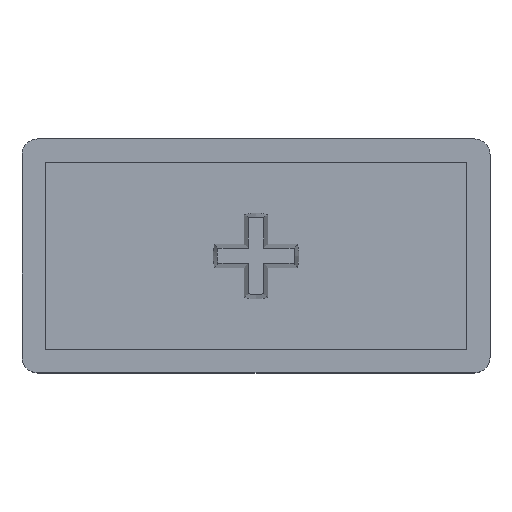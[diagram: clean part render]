
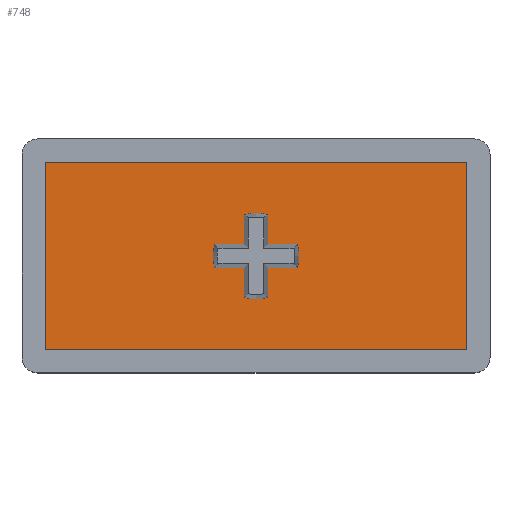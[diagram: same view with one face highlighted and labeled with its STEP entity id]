
A CAD part, top view. The second image highlights one B-rep face of the part: STEP entity #748.
In plain terms, the highlighted planar face has unit normal (0, 0, 1).
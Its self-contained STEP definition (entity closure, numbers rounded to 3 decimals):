
#2 = EDGE_CURVE ( 'NONE', #265, #550, #343, .T. ) ;
#3 = CARTESIAN_POINT ( 'NONE',  ( -2.646, 0.75, 1.5 ) ) ;
#4 = LINE ( 'NONE', #622, #60 ) ;
#13 = VERTEX_POINT ( 'NONE', #43 ) ;
#24 = ORIENTED_EDGE ( 'NONE', *, *, #734, .F. ) ;
#32 = AXIS2_PLACEMENT_3D ( 'NONE', #167, #785, #649 ) ;
#43 = CARTESIAN_POINT ( 'NONE',  ( -0.75, 2.646, 1.5 ) ) ;
#50 = DIRECTION ( 'NONE',  ( 0., -1., 0. ) ) ;
#54 = DIRECTION ( 'NONE',  ( -1., 0., 0. ) ) ;
#55 = CARTESIAN_POINT ( 'NONE',  ( -0.75, 0.75, 1.5 ) ) ;
#56 = DIRECTION ( 'NONE',  ( 0., 0., 1. ) ) ;
#60 = VECTOR ( 'NONE', #847, 1000. ) ;
#67 = CARTESIAN_POINT ( 'NONE',  ( -13.5, -6., 1.5 ) ) ;
#73 = DIRECTION ( 'NONE',  ( 0., 0., 1. ) ) ;
#75 = CIRCLE ( 'NONE', #616, 2.75 ) ;
#80 = DIRECTION ( 'NONE',  ( -1., 0., 0. ) ) ;
#86 = EDGE_LOOP ( 'NONE', ( #307, #620, #827, #664, #718, #1000, #24, #951, #788, #562, #320, #828, #493 ) ) ;
#87 = DIRECTION ( 'NONE',  ( -1., 0., 0. ) ) ;
#93 = VERTEX_POINT ( 'NONE', #766 ) ;
#97 = LINE ( 'NONE', #436, #395 ) ;
#101 = EDGE_CURVE ( 'NONE', #878, #265, #282, .T. ) ;
#112 = VECTOR ( 'NONE', #435, 1000. ) ;
#127 = CARTESIAN_POINT ( 'NONE',  ( -2.646, -0.75, 1.5 ) ) ;
#129 = CARTESIAN_POINT ( 'NONE',  ( -13.5, 6., 1.5 ) ) ;
#133 = FACE_OUTER_BOUND ( 'NONE', #742, .T. ) ;
#140 = CARTESIAN_POINT ( 'NONE',  ( -0.75, -0.75, 1.5 ) ) ;
#145 = PLANE ( 'NONE',  #747 ) ;
#155 = VERTEX_POINT ( 'NONE', #67 ) ;
#162 = LINE ( 'NONE', #234, #372 ) ;
#167 = CARTESIAN_POINT ( 'NONE',  ( 0., 0., 1.5 ) ) ;
#176 = DIRECTION ( 'NONE',  ( 1., 0., 0. ) ) ;
#180 = VERTEX_POINT ( 'NONE', #129 ) ;
#184 = EDGE_CURVE ( 'NONE', #550, #427, #779, .T. ) ;
#195 = CARTESIAN_POINT ( 'NONE',  ( 2.646, -0.75, 1.5 ) ) ;
#197 = EDGE_CURVE ( 'NONE', #803, #642, #442, .T. ) ;
#208 = DIRECTION ( 'NONE',  ( 0., 1., 0. ) ) ;
#222 = DIRECTION ( 'NONE',  ( -1., 0., 0. ) ) ;
#224 = VERTEX_POINT ( 'NONE', #569 ) ;
#225 = DIRECTION ( 'NONE',  ( 0., 1., 0. ) ) ;
#226 = EDGE_CURVE ( 'NONE', #934, #878, #880, .T. ) ;
#231 = DIRECTION ( 'NONE',  ( -1., 0., 0. ) ) ;
#234 = CARTESIAN_POINT ( 'NONE',  ( -0.75, -2.646, 1.5 ) ) ;
#239 = CARTESIAN_POINT ( 'NONE',  ( 0., 0., 1.5 ) ) ;
#258 = CARTESIAN_POINT ( 'NONE',  ( 2.646, 0.75, 1.5 ) ) ;
#259 = EDGE_CURVE ( 'NONE', #706, #180, #700, .T. ) ;
#262 = CARTESIAN_POINT ( 'NONE',  ( 0.75, 2.646, 1.5 ) ) ;
#265 = VERTEX_POINT ( 'NONE', #884 ) ;
#267 = CARTESIAN_POINT ( 'NONE',  ( -13.5, 6., 1.5 ) ) ;
#276 = CARTESIAN_POINT ( 'NONE',  ( 2.646, -0.75, 1.5 ) ) ;
#280 = DIRECTION ( 'NONE',  ( -1., 0., 0. ) ) ;
#281 = LINE ( 'NONE', #744, #443 ) ;
#282 = LINE ( 'NONE', #536, #817 ) ;
#296 = CARTESIAN_POINT ( 'NONE',  ( 13.5, 6., 1.5 ) ) ;
#298 = EDGE_CURVE ( 'NONE', #421, #13, #75, .T. ) ;
#305 = AXIS2_PLACEMENT_3D ( 'NONE', #362, #56, #280 ) ;
#307 = ORIENTED_EDGE ( 'NONE', *, *, #431, .F. ) ;
#309 = EDGE_CURVE ( 'NONE', #753, #934, #162, .T. ) ;
#320 = ORIENTED_EDGE ( 'NONE', *, *, #101, .F. ) ;
#343 = LINE ( 'NONE', #195, #574 ) ;
#357 = VECTOR ( 'NONE', #54, 1000. ) ;
#362 = CARTESIAN_POINT ( 'NONE',  ( 0., 0., 1.5 ) ) ;
#372 = VECTOR ( 'NONE', #626, 1000. ) ;
#387 = DIRECTION ( 'NONE',  ( 0., 1., 0. ) ) ;
#395 = VECTOR ( 'NONE', #387, 1000. ) ;
#397 = DIRECTION ( 'NONE',  ( 0., 0., 1. ) ) ;
#408 = LINE ( 'NONE', #893, #985 ) ;
#421 = VERTEX_POINT ( 'NONE', #262 ) ;
#427 = VERTEX_POINT ( 'NONE', #258 ) ;
#431 = EDGE_CURVE ( 'NONE', #768, #753, #408, .T. ) ;
#432 = CARTESIAN_POINT ( 'NONE',  ( -2.646, 0.75, 1.5 ) ) ;
#434 = CARTESIAN_POINT ( 'NONE',  ( 0., 0., 1.5 ) ) ;
#435 = DIRECTION ( 'NONE',  ( 0., -1., 0. ) ) ;
#436 = CARTESIAN_POINT ( 'NONE',  ( 13.5, -6., 1.5 ) ) ;
#440 = LINE ( 'NONE', #838, #530 ) ;
#442 = CIRCLE ( 'NONE', #305, 2.75 ) ;
#443 = VECTOR ( 'NONE', #50, 1000. ) ;
#446 = DIRECTION ( 'NONE',  ( -1., 0., 0. ) ) ;
#450 = EDGE_CURVE ( 'NONE', #13, #495, #281, .T. ) ;
#479 = CIRCLE ( 'NONE', #715, 2.75 ) ;
#493 = ORIENTED_EDGE ( 'NONE', *, *, #309, .F. ) ;
#495 = VERTEX_POINT ( 'NONE', #55 ) ;
#518 = EDGE_CURVE ( 'NONE', #180, #155, #829, .T. ) ;
#527 = CARTESIAN_POINT ( 'NONE',  ( 0., 0., 1.5 ) ) ;
#530 = VECTOR ( 'NONE', #208, 1000. ) ;
#536 = CARTESIAN_POINT ( 'NONE',  ( 0.75, -0.75, 1.5 ) ) ;
#550 = VERTEX_POINT ( 'NONE', #276 ) ;
#555 = VECTOR ( 'NONE', #80, 1000. ) ;
#562 = ORIENTED_EDGE ( 'NONE', *, *, #2, .F. ) ;
#568 = ORIENTED_EDGE ( 'NONE', *, *, #259, .T. ) ;
#569 = CARTESIAN_POINT ( 'NONE',  ( 0.75, 0.75, 1.5 ) ) ;
#570 = ORIENTED_EDGE ( 'NONE', *, *, #600, .T. ) ;
#574 = VECTOR ( 'NONE', #585, 1000. ) ;
#585 = DIRECTION ( 'NONE',  ( 1., 0., 0. ) ) ;
#600 = EDGE_CURVE ( 'NONE', #93, #706, #97, .T. ) ;
#615 = DIRECTION ( 'NONE',  ( 1., 0., 0. ) ) ;
#616 = AXIS2_PLACEMENT_3D ( 'NONE', #239, #397, #231 ) ;
#617 = CARTESIAN_POINT ( 'NONE',  ( 13.5, 6., 1.5 ) ) ;
#618 = CARTESIAN_POINT ( 'NONE',  ( 0., 0., 1.5 ) ) ;
#620 = ORIENTED_EDGE ( 'NONE', *, *, #869, .F. ) ;
#622 = CARTESIAN_POINT ( 'NONE',  ( -13.5, -6., 1.5 ) ) ;
#626 = DIRECTION ( 'NONE',  ( 0., -1., 0. ) ) ;
#642 = VERTEX_POINT ( 'NONE', #771 ) ;
#649 = DIRECTION ( 'NONE',  ( -1., 0., 0. ) ) ;
#664 = ORIENTED_EDGE ( 'NONE', *, *, #770, .F. ) ;
#666 = VECTOR ( 'NONE', #87, 1000. ) ;
#700 = LINE ( 'NONE', #296, #666 ) ;
#706 = VERTEX_POINT ( 'NONE', #617 ) ;
#715 = AXIS2_PLACEMENT_3D ( 'NONE', #618, #922, #222 ) ;
#718 = ORIENTED_EDGE ( 'NONE', *, *, #450, .F. ) ;
#727 = ORIENTED_EDGE ( 'NONE', *, *, #518, .T. ) ;
#734 = EDGE_CURVE ( 'NONE', #224, #421, #440, .T. ) ;
#742 = EDGE_LOOP ( 'NONE', ( #568, #727, #903, #570 ) ) ;
#744 = CARTESIAN_POINT ( 'NONE',  ( -0.75, 0.75, 1.5 ) ) ;
#747 = AXIS2_PLACEMENT_3D ( 'NONE', #527, #73, #615 ) ;
#748 = ADVANCED_FACE ( 'NONE', ( #133, #764 ), #145, .T. ) ;
#753 = VERTEX_POINT ( 'NONE', #140 ) ;
#761 = AXIS2_PLACEMENT_3D ( 'NONE', #434, #911, #446 ) ;
#764 = FACE_BOUND ( 'NONE', #86, .T. ) ;
#766 = CARTESIAN_POINT ( 'NONE',  ( 13.5, -6., 1.5 ) ) ;
#768 = VERTEX_POINT ( 'NONE', #127 ) ;
#770 = EDGE_CURVE ( 'NONE', #495, #803, #991, .T. ) ;
#771 = CARTESIAN_POINT ( 'NONE',  ( -2.75, 0., 1.5 ) ) ;
#779 = CIRCLE ( 'NONE', #761, 2.75 ) ;
#785 = DIRECTION ( 'NONE',  ( 0., 0., 1. ) ) ;
#788 = ORIENTED_EDGE ( 'NONE', *, *, #184, .F. ) ;
#803 = VERTEX_POINT ( 'NONE', #3 ) ;
#817 = VECTOR ( 'NONE', #225, 1000. ) ;
#827 = ORIENTED_EDGE ( 'NONE', *, *, #197, .F. ) ;
#828 = ORIENTED_EDGE ( 'NONE', *, *, #226, .F. ) ;
#829 = LINE ( 'NONE', #267, #112 ) ;
#838 = CARTESIAN_POINT ( 'NONE',  ( 0.75, 2.646, 1.5 ) ) ;
#847 = DIRECTION ( 'NONE',  ( 1., 0., 0. ) ) ;
#850 = CARTESIAN_POINT ( 'NONE',  ( 0.75, -2.646, 1.5 ) ) ;
#857 = LINE ( 'NONE', #932, #555 ) ;
#869 = EDGE_CURVE ( 'NONE', #642, #768, #479, .T. ) ;
#878 = VERTEX_POINT ( 'NONE', #850 ) ;
#880 = CIRCLE ( 'NONE', #32, 2.75 ) ;
#884 = CARTESIAN_POINT ( 'NONE',  ( 0.75, -0.75, 1.5 ) ) ;
#893 = CARTESIAN_POINT ( 'NONE',  ( -0.75, -0.75, 1.5 ) ) ;
#903 = ORIENTED_EDGE ( 'NONE', *, *, #948, .T. ) ;
#911 = DIRECTION ( 'NONE',  ( 0., 0., 1. ) ) ;
#922 = DIRECTION ( 'NONE',  ( 0., 0., 1. ) ) ;
#928 = CARTESIAN_POINT ( 'NONE',  ( -0.75, -2.646, 1.5 ) ) ;
#932 = CARTESIAN_POINT ( 'NONE',  ( 0.75, 0.75, 1.5 ) ) ;
#934 = VERTEX_POINT ( 'NONE', #928 ) ;
#948 = EDGE_CURVE ( 'NONE', #155, #93, #4, .T. ) ;
#951 = ORIENTED_EDGE ( 'NONE', *, *, #963, .F. ) ;
#963 = EDGE_CURVE ( 'NONE', #427, #224, #857, .T. ) ;
#985 = VECTOR ( 'NONE', #176, 1000. ) ;
#991 = LINE ( 'NONE', #432, #357 ) ;
#1000 = ORIENTED_EDGE ( 'NONE', *, *, #298, .F. ) ;
